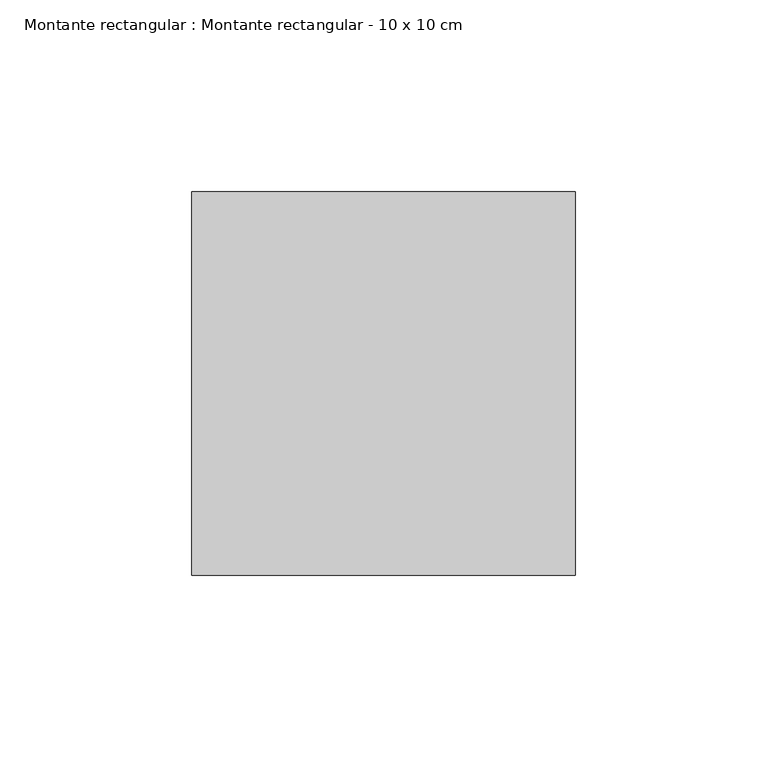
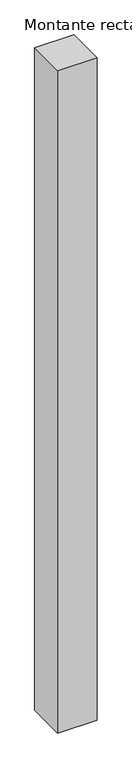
"""IFC4 building model written with IfcOpenShell, lengths in millimetres: member geometry, Montante rectangular : Montante rectangular - 10 x 10 cm."""

from ifc_helpers import new_model, si_unit, frame, origin, place, context, project, spatial, polyline, outline, extrude, source, transform, mapped, element, save


def montante_rectangular_montante_rectangular_10_x_10_cm_7be1e4ba(model_context):
    return source(origin(), model_context, "Body", "SweptSolid", [
        extrude(outline(polyline([(-100.0, 50.0), (0.0, 50.0), (0.0, -50.0), (-100.0, -50.0), (-100.0, 50.0)])), frame((0.0, 0.0, -1775.0), z_axis=(0.0, 0.0, 1.0), x_axis=(1.0, 0.0, 0.0)), (0.0, 0.0, 1.0), 1775.0),
    ])


if __name__ == "__main__":
    model = new_model("IFC4")
    model_context = context("Model", 3, world=origin())
    ifc_project = project(units=[si_unit("LENGTHUNIT", "METRE", prefix="MILLI")], contexts=[model_context])
    site = spatial("IfcSite", under=ifc_project)
    building = spatial("IfcBuilding", under=site)
    placement = place(None, origin())
    montante_rectangular_montante_rectangular_10_x_10_cm_shape = montante_rectangular_montante_rectangular_10_x_10_cm_7be1e4ba(model_context)
    element("IfcMember", 1, ObjectType="Montante rectangular : Montante rectangular - 10 x 10 cm", at=placement, inside=building, context=model_context, shape_type="MappedRepresentation", body=[
        mapped(montante_rectangular_montante_rectangular_10_x_10_cm_shape, transform((0.0, 0.0, 0.0), x_axis=(1.0, 0.0, 0.0), y_axis=(0.0, 1.0, 0.0), z_axis=(0.0, 0.0, 1.0))),
    ])
    save(model, "model.ifc")
